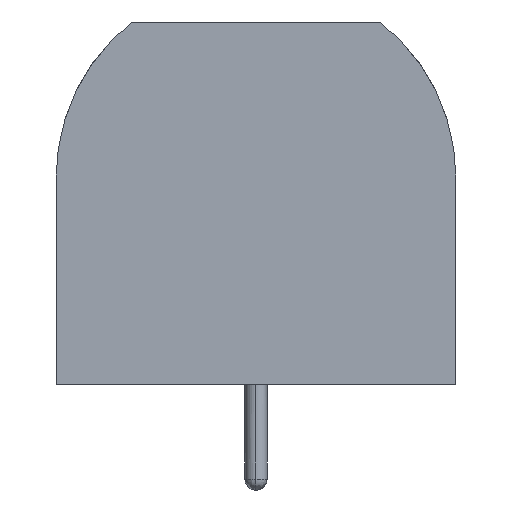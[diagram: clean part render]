
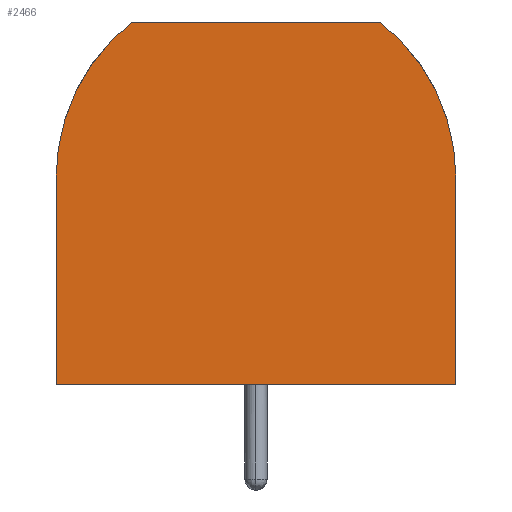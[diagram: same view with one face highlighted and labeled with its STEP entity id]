
A CAD part, left-side view. The second image highlights one B-rep face of the part: STEP entity #2466.
In plain terms, the highlighted planar face has unit normal (-1, 0, 0).
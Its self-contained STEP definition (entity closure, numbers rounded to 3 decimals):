
#2466=ADVANCED_FACE('',(#2947),#9832,.T.);
#2947=FACE_OUTER_BOUND('',#3436,.T.);
#3436=EDGE_LOOP('',(#4063,#4064,#4065,#4066,#4067,#4068));
#4063=ORIENTED_EDGE('',*,*,#6425,.T.);
#4064=ORIENTED_EDGE('',*,*,#6426,.T.);
#4065=ORIENTED_EDGE('',*,*,#6415,.T.);
#4066=ORIENTED_EDGE('',*,*,#6434,.T.);
#4067=ORIENTED_EDGE('',*,*,#6427,.T.);
#4068=ORIENTED_EDGE('',*,*,#6466,.T.);
#6415=EDGE_CURVE('',#9065,#9066,#7673,.T.);
#6425=EDGE_CURVE('',#9075,#9076,#7683,.T.);
#6426=EDGE_CURVE('',#9076,#9065,#7684,.T.);
#6427=EDGE_CURVE('',#9077,#9078,#7685,.T.);
#6434=EDGE_CURVE('',#9066,#9077,#7578,.T.);
#6466=EDGE_CURVE('',#9078,#9075,#7588,.T.);
#7578=(
BOUNDED_CURVE()
B_SPLINE_CURVE(2,(#12317,#12318,#12319),.UNSPECIFIED.,.F.,.F.)
B_SPLINE_CURVE_WITH_KNOTS((3,3),(0.,6.962),.UNSPECIFIED.)
CURVE()
GEOMETRIC_REPRESENTATION_ITEM()
RATIONAL_B_SPLINE_CURVE((1.,0.887,1.))
REPRESENTATION_ITEM('')
);
#7588=(
BOUNDED_CURVE()
B_SPLINE_CURVE(2,(#12391,#12392,#12393),.UNSPECIFIED.,.F.,.F.)
B_SPLINE_CURVE_WITH_KNOTS((3,3),(0.,6.962),.UNSPECIFIED.)
CURVE()
GEOMETRIC_REPRESENTATION_ITEM()
RATIONAL_B_SPLINE_CURVE((1.,0.887,1.))
REPRESENTATION_ITEM('')
);
#7673=B_SPLINE_CURVE_WITH_KNOTS('',1,(#12279,#12280),.UNSPECIFIED.,.F.,
 .F.,(2,2),(0.,7.75),.UNSPECIFIED.);
#7683=B_SPLINE_CURVE_WITH_KNOTS('',1,(#12299,#12300),.UNSPECIFIED.,.F.,
 .F.,(2,2),(0.,7.75),.UNSPECIFIED.);
#7684=B_SPLINE_CURVE_WITH_KNOTS('',1,(#12301,#12302),.UNSPECIFIED.,.F.,
 .F.,(2,2),(0.,16.2),.UNSPECIFIED.);
#7685=B_SPLINE_CURVE_WITH_KNOTS('',1,(#12303,#12304),.UNSPECIFIED.,.F.,
 .F.,(2,2),(0.,10.014),.UNSPECIFIED.);
#9065=VERTEX_POINT('',#12183);
#9066=VERTEX_POINT('',#12184);
#9075=VERTEX_POINT('',#12193);
#9076=VERTEX_POINT('',#12194);
#9077=VERTEX_POINT('',#12195);
#9078=VERTEX_POINT('',#12196);
#9832=PLANE('',#10212);
#10212=AXIS2_PLACEMENT_3D('',#11730,#10809,$);
#10809=DIRECTION('',(-1.,0.,0.));
#11730=CARTESIAN_POINT('',(-3.887,9.187,14.175));
#12183=CARTESIAN_POINT('',(-3.887,-5.176,1.17));
#12184=CARTESIAN_POINT('',(-3.887,-5.176,7.862));
#12193=CARTESIAN_POINT('',(-3.887,7.881,7.862));
#12194=CARTESIAN_POINT('',(-3.887,7.881,1.17));
#12195=CARTESIAN_POINT('',(-3.887,-2.683,12.992));
#12196=CARTESIAN_POINT('',(-3.887,5.388,12.992));
#12279=CARTESIAN_POINT('',(-3.887,-5.176,1.17));
#12280=CARTESIAN_POINT('',(-3.887,-5.176,7.862));
#12299=CARTESIAN_POINT('',(-3.887,7.881,7.862));
#12300=CARTESIAN_POINT('',(-3.887,7.881,1.17));
#12301=CARTESIAN_POINT('',(-3.887,7.881,1.17));
#12302=CARTESIAN_POINT('',(-3.887,-5.176,1.17));
#12303=CARTESIAN_POINT('',(-3.887,-2.683,12.992));
#12304=CARTESIAN_POINT('',(-3.887,5.388,12.992));
#12317=CARTESIAN_POINT('',(-3.887,-5.176,7.862));
#12318=CARTESIAN_POINT('',(-3.887,-5.176,11.123));
#12319=CARTESIAN_POINT('',(-3.887,-2.683,12.992));
#12391=CARTESIAN_POINT('',(-3.887,5.388,12.992));
#12392=CARTESIAN_POINT('',(-3.887,7.881,11.123));
#12393=CARTESIAN_POINT('',(-3.887,7.881,7.862));
